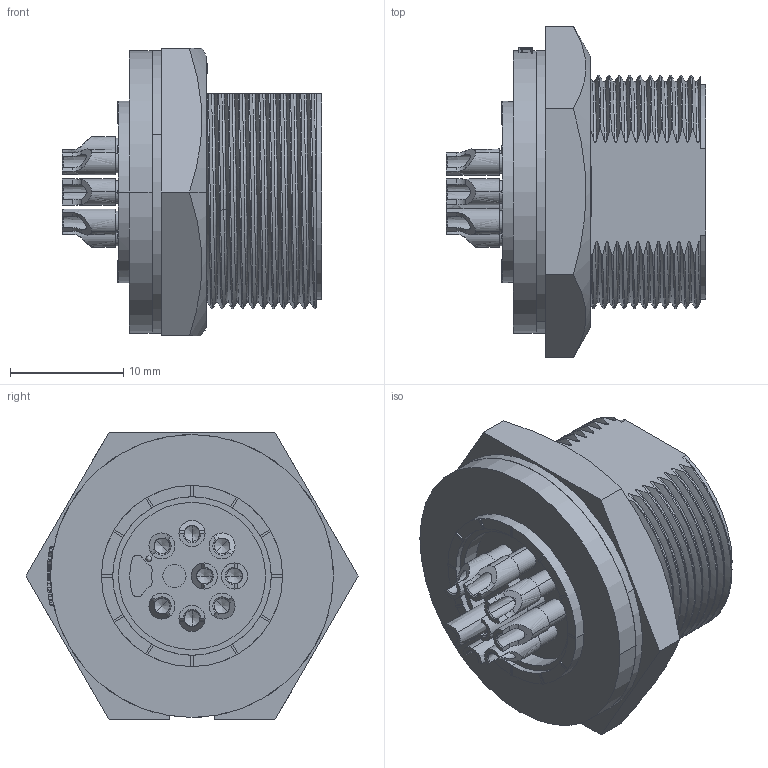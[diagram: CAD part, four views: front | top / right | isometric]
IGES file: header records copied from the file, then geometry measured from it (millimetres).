
Start section:  PTC IGES file: 1cd-08pmfs-sc7001.igs
Global section: file name: 1cd-08pmfs-sc7001.igs; native system: Creo Parametric by Parametric Technology Corporation; preprocessor: 2017170; author: L210039; organization: Unknown; date: 20210930.172526; units: millimetre
Bounding box: 22.95 x 29.33 x 25.4 mm (x, y, z)
Volume: 5709.6 mm3; surface area: 5379.3 mm2
Topology: 1 solids, 2 shells, 615 faces, 1750 edges, 1151 vertices
Faces by surface type: bspline 314, revolution 192, extrusion 109
